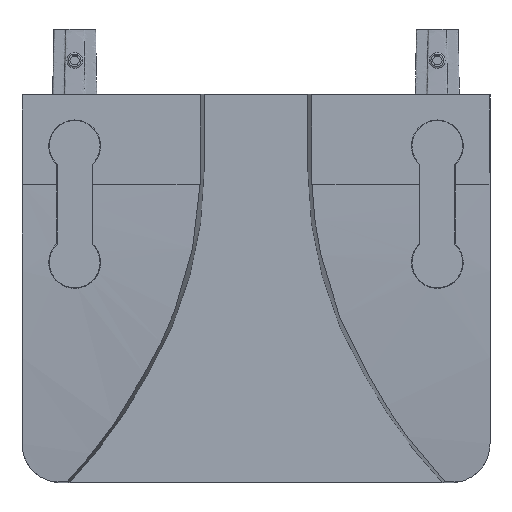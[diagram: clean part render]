
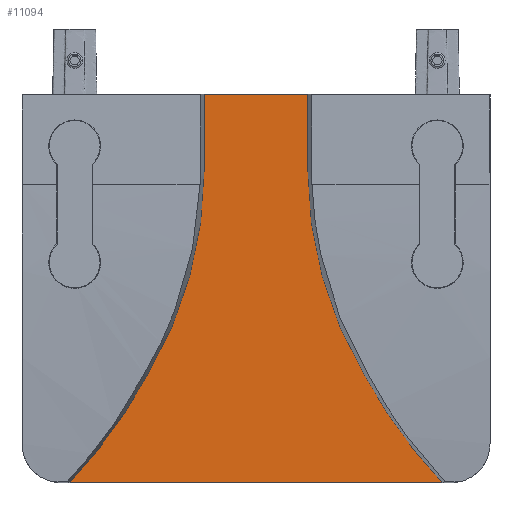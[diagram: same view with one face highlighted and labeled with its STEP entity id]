
A CAD part, top view. The second image highlights one B-rep face of the part: STEP entity #11094.
In plain terms, the highlighted planar face has unit normal (0, 0, 1).
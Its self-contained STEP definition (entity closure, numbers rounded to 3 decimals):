
#174=PLANE('',#11669);
#636=LINE('',#15381,#1226);
#660=LINE('',#15569,#1250);
#661=LINE('',#15572,#1251);
#662=LINE('',#15573,#1252);
#1226=VECTOR('',#12740,1000.);
#1250=VECTOR('',#12806,1000.);
#1251=VECTOR('',#12809,1000.);
#1252=VECTOR('',#12810,1000.);
#1790=CIRCLE('',#11666,196.);
#1791=CIRCLE('',#11668,196.);
#1792=CIRCLE('',#11670,155.);
#1793=CIRCLE('',#11671,155.);
#2381=ORIENTED_EDGE('',*,*,#4785,.F.);
#2382=ORIENTED_EDGE('',*,*,#4792,.T.);
#2383=ORIENTED_EDGE('',*,*,#4791,.F.);
#2384=ORIENTED_EDGE('',*,*,#4793,.F.);
#2385=ORIENTED_EDGE('',*,*,#4794,.T.);
#2386=ORIENTED_EDGE('',*,*,#4744,.T.);
#2387=ORIENTED_EDGE('',*,*,#4795,.T.);
#2388=ORIENTED_EDGE('',*,*,#4796,.F.);
#4744=EDGE_CURVE('',#5970,#5969,#636,.T.);
#4785=EDGE_CURVE('',#6005,#6007,#1790,.T.);
#4791=EDGE_CURVE('',#6012,#6010,#1791,.T.);
#4792=EDGE_CURVE('',#6005,#6010,#660,.T.);
#4793=EDGE_CURVE('',#6013,#6012,#1792,.T.);
#4794=EDGE_CURVE('',#6013,#5970,#661,.T.);
#4795=EDGE_CURVE('',#5969,#6014,#662,.T.);
#4796=EDGE_CURVE('',#6007,#6014,#1793,.T.);
#5969=VERTEX_POINT('',#15380);
#5970=VERTEX_POINT('',#15382);
#6005=VERTEX_POINT('',#15537);
#6007=VERTEX_POINT('',#15540);
#6010=VERTEX_POINT('',#15556);
#6012=VERTEX_POINT('',#15566);
#6013=VERTEX_POINT('',#15571);
#6014=VERTEX_POINT('',#15574);
#6874=EDGE_LOOP('',(#2381,#2382,#2383,#2384,#2385,#2386,#2387,#2388));
#7412=FACE_BOUND('',#6874,.T.);
#11094=ADVANCED_FACE('',(#7412),#174,.T.);
#11666=AXIS2_PLACEMENT_3D('',#15539,#12798,#12799);
#11668=AXIS2_PLACEMENT_3D('',#15567,#12802,#12803);
#11669=AXIS2_PLACEMENT_3D('',#15568,#12804,#12805);
#11670=AXIS2_PLACEMENT_3D('',#15570,#12807,#12808);
#11671=AXIS2_PLACEMENT_3D('',#15575,#12811,#12812);
#12740=DIRECTION('',(-1.,0.,0.));
#12798=DIRECTION('',(0.,0.,1.));
#12799=DIRECTION('',(1.,0.,0.));
#12802=DIRECTION('',(0.,0.,1.));
#12803=DIRECTION('',(1.,0.,0.));
#12804=DIRECTION('',(0.,0.,1.));
#12805=DIRECTION('',(1.,0.,0.));
#12806=DIRECTION('',(1.,0.,0.));
#12807=DIRECTION('',(0.,0.,1.));
#12808=DIRECTION('',(1.,0.,0.));
#12809=DIRECTION('',(0.,1.,0.));
#12810=DIRECTION('',(0.,-1.,0.));
#12811=DIRECTION('',(0.,0.,1.));
#12812=DIRECTION('',(1.,0.,0.));
#15380=CARTESIAN_POINT('',(-20.,0.,2.));
#15381=CARTESIAN_POINT('',(20.,0.,2.));
#15382=CARTESIAN_POINT('',(20.,0.,2.));
#15537=CARTESIAN_POINT('',(-71.959,-149.948,2.));
#15539=CARTESIAN_POINT('',(-214.35,-15.26,2.));
#15540=CARTESIAN_POINT('',(-42.021,-108.634,2.));
#15556=CARTESIAN_POINT('',(71.959,-149.948,2.));
#15566=CARTESIAN_POINT('',(42.021,-108.634,2.));
#15567=CARTESIAN_POINT('',(214.35,-15.26,2.));
#15568=CARTESIAN_POINT('',(-214.35,-15.26,2.));
#15569=CARTESIAN_POINT('',(-214.35,-149.948,2.));
#15570=CARTESIAN_POINT('',(175.,-29.,2.));
#15571=CARTESIAN_POINT('',(20.,-29.,2.));
#15572=CARTESIAN_POINT('',(20.,-29.,2.));
#15573=CARTESIAN_POINT('',(-20.,0.,2.));
#15574=CARTESIAN_POINT('',(-20.,-29.,2.));
#15575=CARTESIAN_POINT('',(-175.,-29.,2.));
